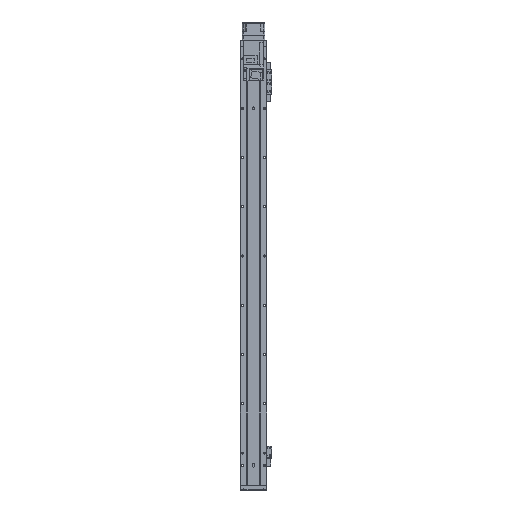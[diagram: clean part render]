
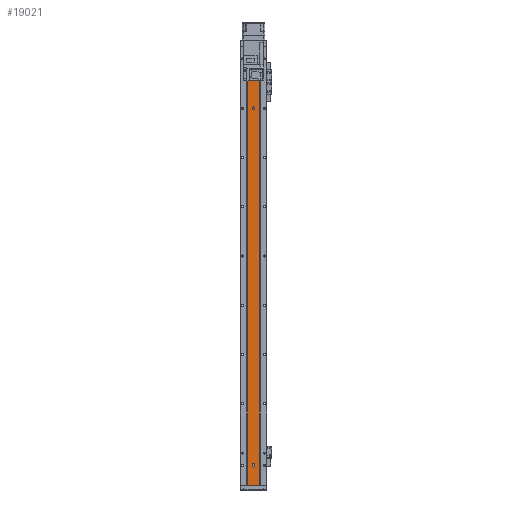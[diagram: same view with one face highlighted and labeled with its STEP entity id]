
A CAD part, front view. The second image highlights one B-rep face of the part: STEP entity #19021.
In plain terms, the highlighted planar face has unit normal (0, -1, 0).
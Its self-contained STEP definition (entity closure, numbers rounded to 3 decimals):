
#827 = CARTESIAN_POINT ( 'NONE',  ( 2.5, 1.5, -890. ) ) ;
#1371 = ORIENTED_EDGE ( 'NONE', *, *, #2518, .F. ) ;
#2518 = EDGE_CURVE ( 'NONE', #15064, #22305, #7151, .T. ) ;
#3216 = EDGE_CURVE ( 'NONE', #26100, #20626, #20632, .T. ) ;
#3418 = ORIENTED_EDGE ( 'NONE', *, *, #28252, .F. ) ;
#3604 = CARTESIAN_POINT ( 'NONE',  ( 12.293, 1.5, -890. ) ) ;
#4656 = EDGE_LOOP ( 'NONE', ( #28511, #26143 ) ) ;
#5242 = DIRECTION ( 'NONE',  ( 0., -1., 0. ) ) ;
#5641 = CARTESIAN_POINT ( 'NONE',  ( -12.293, 1.5, -890. ) ) ;
#5660 = FACE_OUTER_BOUND ( 'NONE', #13932, .T. ) ;
#5790 = LINE ( 'NONE', #19506, #15470 ) ;
#7018 = VERTEX_POINT ( 'NONE', #9779 ) ;
#7151 = CIRCLE ( 'NONE', #27746, 2.5 ) ;
#7184 = ORIENTED_EDGE ( 'NONE', *, *, #9815, .F. ) ;
#7255 = LINE ( 'NONE', #13850, #36698 ) ;
#7855 = CARTESIAN_POINT ( 'NONE',  ( 0., 1.5, -125. ) ) ;
#8812 = ORIENTED_EDGE ( 'NONE', *, *, #3216, .F. ) ;
#8922 = CARTESIAN_POINT ( 'NONE',  ( -12.293, 1.5, 0. ) ) ;
#9072 = FACE_BOUND ( 'NONE', #35081, .T. ) ;
#9184 = EDGE_CURVE ( 'NONE', #26100, #7018, #26043, .T. ) ;
#9779 = CARTESIAN_POINT ( 'NONE',  ( 12.293, 1.5, -890. ) ) ;
#9815 = EDGE_CURVE ( 'NONE', #22305, #15064, #14918, .T. ) ;
#10043 = EDGE_LOOP ( 'NONE', ( #7184, #1371 ) ) ;
#10431 = CARTESIAN_POINT ( 'NONE',  ( -12.293, 1.5, -890. ) ) ;
#11243 = CARTESIAN_POINT ( 'NONE',  ( 0., 1.5, -849. ) ) ;
#11522 = AXIS2_PLACEMENT_3D ( 'NONE', #36886, #18452, #21675 ) ;
#11577 = AXIS2_PLACEMENT_3D ( 'NONE', #13477, #38084, #23019 ) ;
#11723 = CIRCLE ( 'NONE', #11522, 2.5 ) ;
#12483 = ORIENTED_EDGE ( 'NONE', *, *, #24393, .F. ) ;
#12830 = CARTESIAN_POINT ( 'NONE',  ( 2.5, 1.5, -849. ) ) ;
#12863 = LINE ( 'NONE', #23371, #33634 ) ;
#12910 = VERTEX_POINT ( 'NONE', #21744 ) ;
#12913 = DIRECTION ( 'NONE',  ( 0., -1., 0. ) ) ;
#13385 = DIRECTION ( 'NONE',  ( 0., -1., 0. ) ) ;
#13477 = CARTESIAN_POINT ( 'NONE',  ( 0., 1.5, -125. ) ) ;
#13850 = CARTESIAN_POINT ( 'NONE',  ( 12.293, 1.5, 0. ) ) ;
#13932 = EDGE_LOOP ( 'NONE', ( #23950, #8812, #14775, #37592 ) ) ;
#14344 = ORIENTED_EDGE ( 'NONE', *, *, #32821, .F. ) ;
#14362 = DIRECTION ( 'NONE',  ( 1., 0., 0. ) ) ;
#14775 = ORIENTED_EDGE ( 'NONE', *, *, #9184, .T. ) ;
#14918 = CIRCLE ( 'NONE', #11577, 2.5 ) ;
#15007 = CIRCLE ( 'NONE', #26097, 2.5 ) ;
#15064 = VERTEX_POINT ( 'NONE', #22233 ) ;
#15146 = LINE ( 'NONE', #827, #35371 ) ;
#15470 = VECTOR ( 'NONE', #23914, 1000. ) ;
#15839 = DIRECTION ( 'NONE',  ( 0., 0., 1. ) ) ;
#16569 = CARTESIAN_POINT ( 'NONE',  ( -2.5, 1.5, -851. ) ) ;
#16830 = DIRECTION ( 'NONE',  ( 1., 0., 0. ) ) ;
#18452 = DIRECTION ( 'NONE',  ( 0., -1., 0. ) ) ;
#18959 = DIRECTION ( 'NONE',  ( 1., 0., 0. ) ) ;
#18969 = CARTESIAN_POINT ( 'NONE',  ( 2.5, 1.5, -125. ) ) ;
#19021 = ADVANCED_FACE ( 'NONE', ( #9072, #33249, #29349, #5660 ), #35530, .T. ) ;
#19222 = CARTESIAN_POINT ( 'NONE',  ( 0., 1.5, -851. ) ) ;
#19506 = CARTESIAN_POINT ( 'NONE',  ( -2.5, 1.5, -890. ) ) ;
#20626 = VERTEX_POINT ( 'NONE', #8922 ) ;
#20632 = LINE ( 'NONE', #5641, #28838 ) ;
#20782 = VERTEX_POINT ( 'NONE', #12830 ) ;
#21675 = DIRECTION ( 'NONE',  ( 1., 0., 0. ) ) ;
#21744 = CARTESIAN_POINT ( 'NONE',  ( -2.5, 1.5, -25. ) ) ;
#22009 = DIRECTION ( 'NONE',  ( 1., 0., 0. ) ) ;
#22142 = DIRECTION ( 'NONE',  ( 1., 0., 0. ) ) ;
#22233 = CARTESIAN_POINT ( 'NONE',  ( -2.5, 1.5, -125. ) ) ;
#22305 = VERTEX_POINT ( 'NONE', #18969 ) ;
#22370 = EDGE_CURVE ( 'NONE', #12910, #39764, #11723, .T. ) ;
#22547 = CIRCLE ( 'NONE', #37135, 2.5 ) ;
#22616 = EDGE_CURVE ( 'NONE', #20626, #35146, #7255, .T. ) ;
#23019 = DIRECTION ( 'NONE',  ( 1., 0., 0. ) ) ;
#23271 = DIRECTION ( 'NONE',  ( 1., 0., 0. ) ) ;
#23371 = CARTESIAN_POINT ( 'NONE',  ( 12.293, 1.5, -890. ) ) ;
#23372 = DIRECTION ( 'NONE',  ( 0., -1., 0. ) ) ;
#23636 = DIRECTION ( 'NONE',  ( 0., 0., 1. ) ) ;
#23914 = DIRECTION ( 'NONE',  ( 0., 0., -1. ) ) ;
#23950 = ORIENTED_EDGE ( 'NONE', *, *, #22616, .F. ) ;
#24296 = DIRECTION ( 'NONE',  ( 0., 0., 1. ) ) ;
#24393 = EDGE_CURVE ( 'NONE', #33144, #33839, #15007, .T. ) ;
#25648 = CARTESIAN_POINT ( 'NONE',  ( 2.5, 1.5, -851. ) ) ;
#26043 = LINE ( 'NONE', #3604, #38077 ) ;
#26097 = AXIS2_PLACEMENT_3D ( 'NONE', #19222, #12913, #18959 ) ;
#26100 = VERTEX_POINT ( 'NONE', #10431 ) ;
#26143 = ORIENTED_EDGE ( 'NONE', *, *, #22370, .F. ) ;
#27746 = AXIS2_PLACEMENT_3D ( 'NONE', #7855, #23372, #35761 ) ;
#27925 = CARTESIAN_POINT ( 'NONE',  ( -2.5, 1.5, -849. ) ) ;
#28252 = EDGE_CURVE ( 'NONE', #33839, #20782, #15146, .T. ) ;
#28511 = ORIENTED_EDGE ( 'NONE', *, *, #37884, .F. ) ;
#28838 = VECTOR ( 'NONE', #24296, 1000. ) ;
#29349 = FACE_BOUND ( 'NONE', #4656, .T. ) ;
#29977 = EDGE_CURVE ( 'NONE', #7018, #35146, #12863, .T. ) ;
#31081 = CARTESIAN_POINT ( 'NONE',  ( 2.5, 1.5, -25. ) ) ;
#32821 = EDGE_CURVE ( 'NONE', #20782, #36714, #22547, .T. ) ;
#33025 = EDGE_CURVE ( 'NONE', #36714, #33144, #5790, .T. ) ;
#33144 = VERTEX_POINT ( 'NONE', #16569 ) ;
#33249 = FACE_BOUND ( 'NONE', #10043, .T. ) ;
#33494 = ORIENTED_EDGE ( 'NONE', *, *, #33025, .F. ) ;
#33634 = VECTOR ( 'NONE', #23636, 1000. ) ;
#33839 = VERTEX_POINT ( 'NONE', #25648 ) ;
#34600 = AXIS2_PLACEMENT_3D ( 'NONE', #38601, #35400, #23271 ) ;
#35081 = EDGE_LOOP ( 'NONE', ( #12483, #33494, #14344, #3418 ) ) ;
#35146 = VERTEX_POINT ( 'NONE', #37345 ) ;
#35371 = VECTOR ( 'NONE', #15839, 1000. ) ;
#35400 = DIRECTION ( 'NONE',  ( 0., -1., 0. ) ) ;
#35530 = PLANE ( 'NONE',  #34600 ) ;
#35761 = DIRECTION ( 'NONE',  ( 1., 0., 0. ) ) ;
#36223 = CIRCLE ( 'NONE', #36911, 2.5 ) ;
#36698 = VECTOR ( 'NONE', #16830, 1000. ) ;
#36714 = VERTEX_POINT ( 'NONE', #27925 ) ;
#36886 = CARTESIAN_POINT ( 'NONE',  ( 0., 1.5, -25. ) ) ;
#36911 = AXIS2_PLACEMENT_3D ( 'NONE', #38000, #13385, #22142 ) ;
#37135 = AXIS2_PLACEMENT_3D ( 'NONE', #11243, #5242, #14362 ) ;
#37345 = CARTESIAN_POINT ( 'NONE',  ( 12.293, 1.5, 0. ) ) ;
#37592 = ORIENTED_EDGE ( 'NONE', *, *, #29977, .T. ) ;
#37884 = EDGE_CURVE ( 'NONE', #39764, #12910, #36223, .T. ) ;
#38000 = CARTESIAN_POINT ( 'NONE',  ( 0., 1.5, -25. ) ) ;
#38077 = VECTOR ( 'NONE', #22009, 1000. ) ;
#38084 = DIRECTION ( 'NONE',  ( 0., -1., 0. ) ) ;
#38601 = CARTESIAN_POINT ( 'NONE',  ( 12.293, 1.5, -890. ) ) ;
#39764 = VERTEX_POINT ( 'NONE', #31081 ) ;
